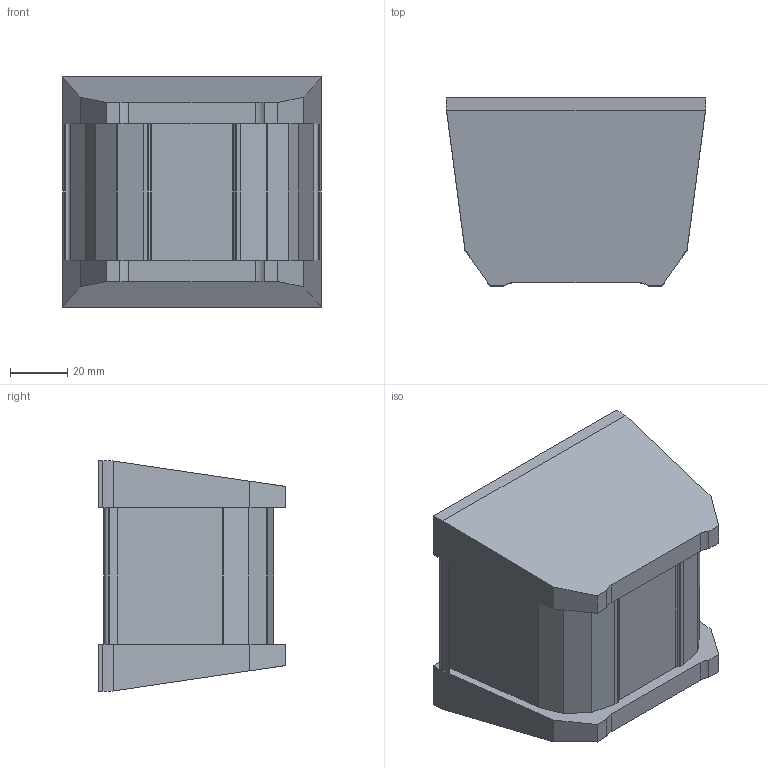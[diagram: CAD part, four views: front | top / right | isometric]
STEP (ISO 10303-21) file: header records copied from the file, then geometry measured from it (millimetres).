
FILE_DESCRIPTION (( 'STEP AP214' ), '1' );
FILE_NAME ('Besteckschale NL 80 L80,5.step', '2010-09-21T13:13:32', ( 'grass' ), ( '' ), 'SwSTEP 2.0', 'SolidWorks 2010', '' );
FILE_SCHEMA (( 'AUTOMOTIVE_DESIGN' ));
Length unit declared in the file: millimetre
Products named in the file (1): Besteckschale NL 80 L80,5
Bounding box: 90.5 x 65.5 x 80.5 mm (x, y, z)
Volume: 52339.5 mm3; surface area: 47149.2 mm2
Topology: 1 solids, 1 shells, 112 faces, 324 edges, 216 vertices
Faces by surface type: plane 80, cylinder 32
Entity records: 3702 total; most frequent: CARTESIAN_POINT 677, ORIENTED_EDGE 648, DIRECTION 602, EDGE_CURVE 324, VECTOR 256, LINE 256, VERTEX_POINT 216, AXIS2_PLACEMENT_3D 173
